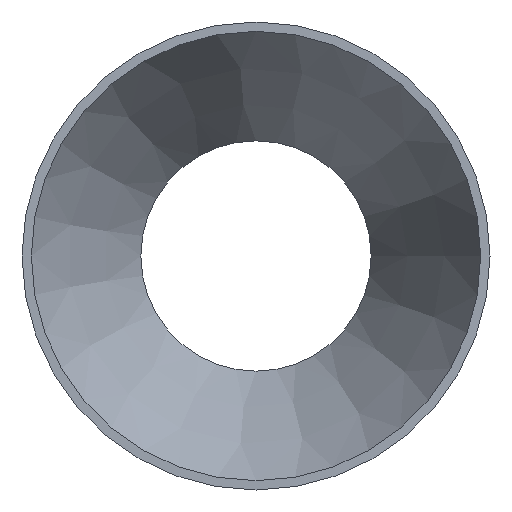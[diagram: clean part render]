
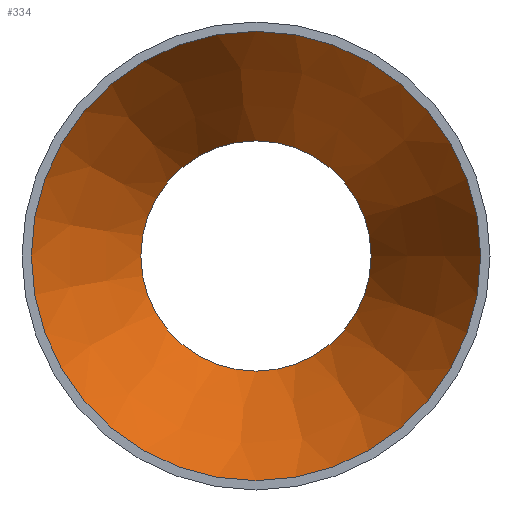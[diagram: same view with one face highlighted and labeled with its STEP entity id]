
A CAD part, left-side view. The second image highlights one B-rep face of the part: STEP entity #334.
In plain terms, the highlighted conical face has half-angle 27.48 degrees and reference radius 61.087 mm.
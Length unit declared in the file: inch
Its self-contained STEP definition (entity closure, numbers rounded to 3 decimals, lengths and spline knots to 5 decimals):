
#66=FACE_OUTER_BOUND('',#82,.T.);
#82=EDGE_LOOP('',(#235,#236,#237,#238,#239,#240));
#104=LINE('',#580,#114);
#114=VECTOR('',#447,2.405);
#127=CIRCLE('',#375,1.63);
#128=CIRCLE('',#376,3.18);
#129=CIRCLE('',#377,3.18);
#130=CIRCLE('',#378,1.63);
#159=VERTEX_POINT('',#576);
#160=VERTEX_POINT('',#577);
#161=VERTEX_POINT('',#579);
#162=VERTEX_POINT('',#581);
#192=EDGE_CURVE('',#159,#160,#127,.T.);
#193=EDGE_CURVE('',#160,#161,#104,.T.);
#194=EDGE_CURVE('',#162,#161,#128,.T.);
#195=EDGE_CURVE('',#161,#162,#129,.T.);
#196=EDGE_CURVE('',#160,#159,#130,.T.);
#235=ORIENTED_EDGE('',*,*,#192,.T.);
#236=ORIENTED_EDGE('',*,*,#193,.T.);
#237=ORIENTED_EDGE('',*,*,#194,.F.);
#238=ORIENTED_EDGE('',*,*,#195,.F.);
#239=ORIENTED_EDGE('',*,*,#193,.F.);
#240=ORIENTED_EDGE('',*,*,#196,.T.);
#314=CONICAL_SURFACE('',#374,2.405,0.48);
#334=ADVANCED_FACE('',(#66),#314,.F.);
#374=AXIS2_PLACEMENT_3D('',#575,#443,#444);
#375=AXIS2_PLACEMENT_3D('',#578,#445,#446);
#376=AXIS2_PLACEMENT_3D('',#582,#448,#449);
#377=AXIS2_PLACEMENT_3D('',#583,#450,#451);
#378=AXIS2_PLACEMENT_3D('',#584,#452,#453);
#443=DIRECTION('center_axis',(-1.,0.,0.));
#444=DIRECTION('ref_axis',(0.,1.,0.));
#445=DIRECTION('center_axis',(1.,0.,0.));
#446=DIRECTION('ref_axis',(0.,1.,0.));
#447=DIRECTION('',(-0.887,-0.461,0.));
#448=DIRECTION('center_axis',(1.,0.,0.));
#449=DIRECTION('ref_axis',(0.,1.,0.));
#450=DIRECTION('center_axis',(1.,0.,0.));
#451=DIRECTION('ref_axis',(0.,1.,0.));
#452=DIRECTION('center_axis',(1.,0.,0.));
#453=DIRECTION('ref_axis',(0.,1.,0.));
#575=CARTESIAN_POINT('Origin',(2.75,0.,0.));
#576=CARTESIAN_POINT('',(4.24,1.63,0.));
#577=CARTESIAN_POINT('',(4.24,-1.63,0.));
#578=CARTESIAN_POINT('Origin',(4.24,0.,0.));
#579=CARTESIAN_POINT('',(1.26,-3.18,0.));
#580=CARTESIAN_POINT('',(2.75,-2.405,0.));
#581=CARTESIAN_POINT('',(1.26,3.18,0.));
#582=CARTESIAN_POINT('Origin',(1.26,0.,0.));
#583=CARTESIAN_POINT('Origin',(1.26,0.,0.));
#584=CARTESIAN_POINT('Origin',(4.24,0.,0.));
